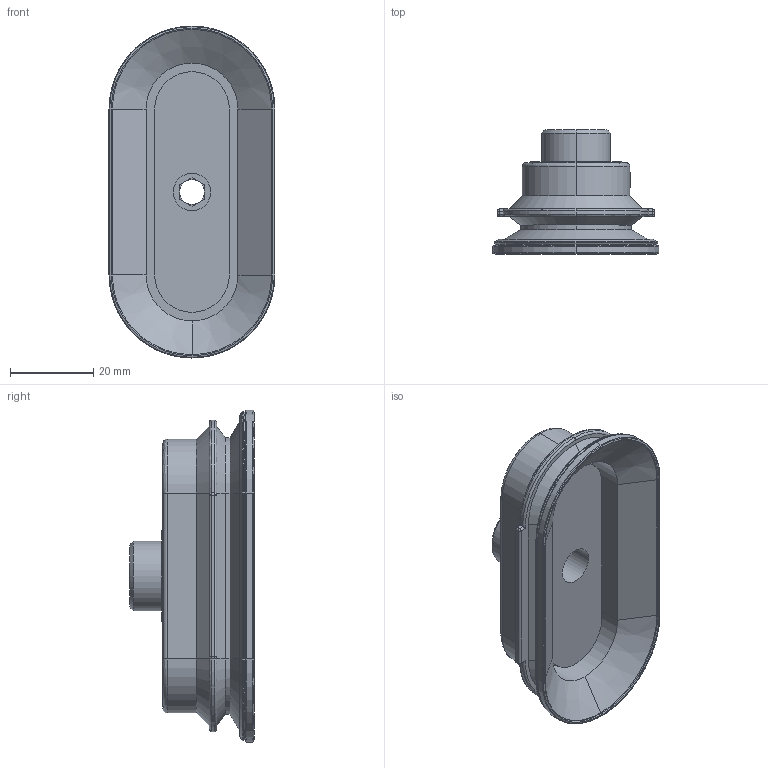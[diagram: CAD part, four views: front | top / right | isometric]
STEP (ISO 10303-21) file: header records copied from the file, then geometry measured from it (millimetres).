
FILE_DESCRIPTION (( 'STEP AP214' ), '1' );
FILE_NAME ('SAOB-80x40-G3-8AG.STEP', '2023-03-07T06:13:29', ( 'Windows User' ), ( 'P R C' ), 'SwSTEP 2.0', 'SolidWorks 2019', '' );
FILE_SCHEMA (( 'AUTOMOTIVE_DESIGN' ));
Length unit declared in the file: millimetre
Products named in the file (1): SAOB-80x40-G3-8AG
Bounding box: 40 x 30 x 80 mm (x, y, z)
Volume: 26560.5 mm3; surface area: 13334.8 mm2
Topology: 1 solids, 1 shells, 234 faces, 534 edges, 312 vertices
Faces by surface type: plane 90, cylinder 60, bspline 56, cone 28
Entity records: 11547 total; most frequent: CARTESIAN_POINT 3900, ORIENTED_EDGE 1060, DIRECTION 1025, EDGE_CURVE 530, AXIS2_PLACEMENT_3D 367, VERTEX_POINT 312, LINE 291, VECTOR 291
